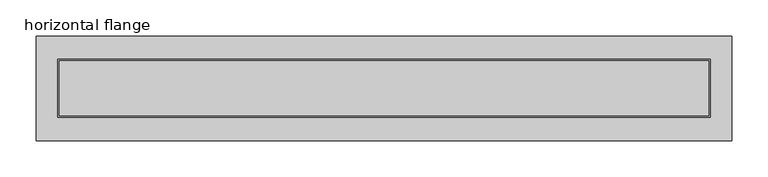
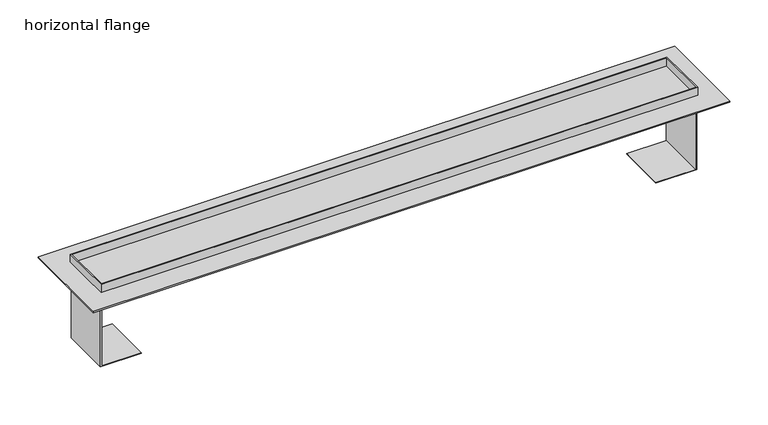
"""IFC4 building model written with IfcOpenShell, lengths in millimetres: sanitary terminal geometry, PF_ST_UN_ShowerDrain M_ACO : horizontal flange."""

from ifc_helpers import new_model, si_unit, frame, origin, origin_with_axes, place, context, project, spatial, polyline, outline, extrude, faceted_brep, source, transform, mapped, element, save


def horizontal_flange_630a0289(model_context):
    return source(origin(), model_context, "Body", "SolidModel", [
        extrude(outline(polyline([(480.0, 72.0), (480.0, -72.0), (-480.0, -72.0), (-480.0, 72.0), (480.0, 72.0)])), origin_with_axes(), (0.0, 0.0, 1.0), 2.0),
        extrude(outline(polyline([(-16.5, -448.0), (-16.5, -450.0), (-117.5, -450.0), (-117.5, -388.0), (-116.5, -388.0), (-116.5, -448.0), (-16.5, -448.0)])), frame((0.0, -38.0, 0.0), z_axis=(0.0, 1.0, 0.0), x_axis=(0.0, 0.0, 1.0)), (0.0, 0.0, 1.0), 76.0),
        extrude(outline(polyline([(-16.5, 448.0), (-116.5, 448.0), (-116.5, 388.0), (-117.5, 388.0), (-117.5, 450.0), (-16.5, 450.0), (-16.5, 448.0)])), frame((0.0, -38.0, 0.0), z_axis=(0.0, 1.0, 0.0), x_axis=(0.0, 0.0, 1.0)), (0.0, 0.0, 1.0), 76.0),
        faceted_brep([(450.0, 40.0, 15.0), (-450.0, 40.0, 15.0), (-450.0, -40.0, 15.0), (450.0, -40.0, 15.0), (-448.0, -38.0, 15.0), (-448.0, 38.0, 15.0), (448.0, 38.0, 15.0), (448.0, -38.0, 15.0), (450.0, 40.0, -16.5), (450.0, -40.0, -16.5), (-450.0, -40.0, -16.5), (-450.0, 40.0, -16.5), (-448.0, 38.0, -6.0), (-448.0, -38.0, -6.0), (448.0, -38.0, -6.0), (448.0, 38.0, -6.0)], [[[0, 1, 2, 3], [4, 5, 6, 7]], [[8, 9, 10, 11]], [[1, 0, 8, 11]], [[2, 1, 11, 10]], [[3, 2, 10, 9]], [[0, 3, 9, 8]], [[12, 13, 14, 15]], [[13, 12, 5, 4]], [[14, 13, 4, 7]], [[15, 14, 7, 6]], [[12, 15, 6, 5]]]),
    ])


if __name__ == "__main__":
    model = new_model("IFC4")
    model_context = context("Model", 3, world=origin())
    ifc_project = project(units=[si_unit("LENGTHUNIT", "METRE", prefix="MILLI")], contexts=[model_context])
    site = spatial("IfcSite", under=ifc_project)
    building = spatial("IfcBuilding", under=site)
    placement = place(None, origin())
    horizontal_flange_shape = horizontal_flange_630a0289(model_context)
    element("IfcSanitaryTerminal", 1, ObjectType="PF_ST_UN_ShowerDrain M_ACO : horizontal flange", at=placement, inside=building, context=model_context, shape_type="MappedRepresentation", body=[
        mapped(horizontal_flange_shape, transform((0.0, 0.0, 0.0), x_axis=(1.0, 0.0, 0.0), y_axis=(0.0, 1.0, 0.0), z_axis=(0.0, 0.0, 1.0))),
    ])
    save(model, "model.ifc")
